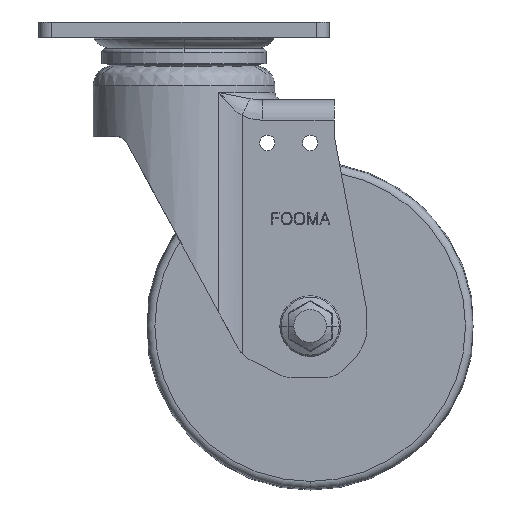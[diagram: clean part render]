
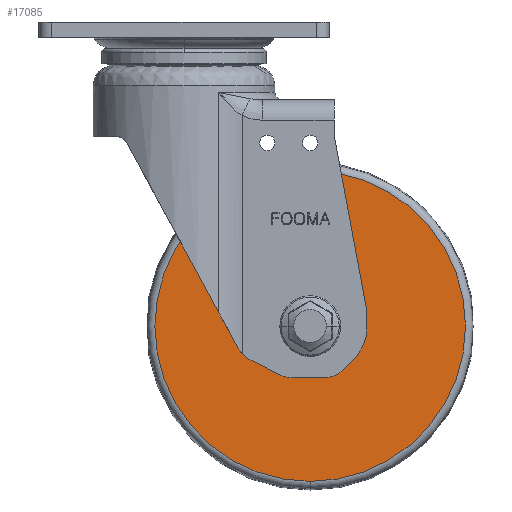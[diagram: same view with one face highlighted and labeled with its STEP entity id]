
A CAD part, front view. The second image highlights one B-rep face of the part: STEP entity #17085.
In plain terms, the highlighted planar face has unit normal (0, -1, 0) as drawn and (0, 0, 1) by its records, which use the part's own axes.
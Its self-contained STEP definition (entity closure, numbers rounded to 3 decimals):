
#909=CARTESIAN_POINT('',(101.278,11.005,4.));
#910=VERTEX_POINT('',#909);
#919=CARTESIAN_POINT('',(101.278,-8.995,4.));
#920=VERTEX_POINT('',#919);
#921=CARTESIAN_POINT('',(101.278,1.005,4.));
#922=DIRECTION('',(0.0,0.0,-1.0));
#923=DIRECTION('',(0.0,1.0,0.0));
#924=AXIS2_PLACEMENT_3D('',#921,#922,#923);
#925=CIRCLE('',#924,10.);
#926=EDGE_CURVE('',#920,#910,#925,.T.);
#997=CARTESIAN_POINT('',(101.278,62.561,4.));
#998=VERTEX_POINT('',#997);
#1015=CARTESIAN_POINT('',(101.278,-60.551,4.));
#1016=VERTEX_POINT('',#1015);
#1024=CARTESIAN_POINT('',(101.278,1.005,4.));
#1025=DIRECTION('',(0.0,0.0,-1.0));
#1026=DIRECTION('',(0.0,1.0,0.0));
#1027=AXIS2_PLACEMENT_3D('',#1024,#1025,#1026);
#1028=CIRCLE('',#1027,61.556);
#1029=EDGE_CURVE('',#1016,#998,#1028,.T.);
#17054=CARTESIAN_POINT('',(101.278,1.005,4.));
#17055=DIRECTION('',(0.0,0.0,-1.0));
#17056=DIRECTION('',(0.0,1.0,0.0));
#17057=AXIS2_PLACEMENT_3D('',#17054,#17055,#17056);
#17058=CIRCLE('',#17057,61.556);
#17059=EDGE_CURVE('',#998,#1016,#17058,.T.);
#17066=CARTESIAN_POINT('',(101.278,36.783,4.));
#17067=DIRECTION('',(0.0,0.0,1.0));
#17068=DIRECTION('',(0.0,-1.0,0.0));
#17069=AXIS2_PLACEMENT_3D('',#17066,#17067,#17068);
#17070=PLANE('',#17069);
#17071=ORIENTED_EDGE('',*,*,#17059,.F.);
#17072=ORIENTED_EDGE('',*,*,#1029,.F.);
#17073=EDGE_LOOP('',(#17071,#17072));
#17074=FACE_OUTER_BOUND('',#17073,.T.);
#17075=CARTESIAN_POINT('',(101.278,1.005,4.));
#17076=DIRECTION('',(0.0,0.0,-1.0));
#17077=DIRECTION('',(0.0,1.0,0.0));
#17078=AXIS2_PLACEMENT_3D('',#17075,#17076,#17077);
#17079=CIRCLE('',#17078,10.);
#17080=EDGE_CURVE('',#910,#920,#17079,.T.);
#17081=ORIENTED_EDGE('',*,*,#17080,.T.);
#17082=ORIENTED_EDGE('',*,*,#926,.T.);
#17083=EDGE_LOOP('',(#17081,#17082));
#17084=FACE_BOUND('',#17083,.T.);
#17085=ADVANCED_FACE('',(#17074,#17084),#17070,.T.);
